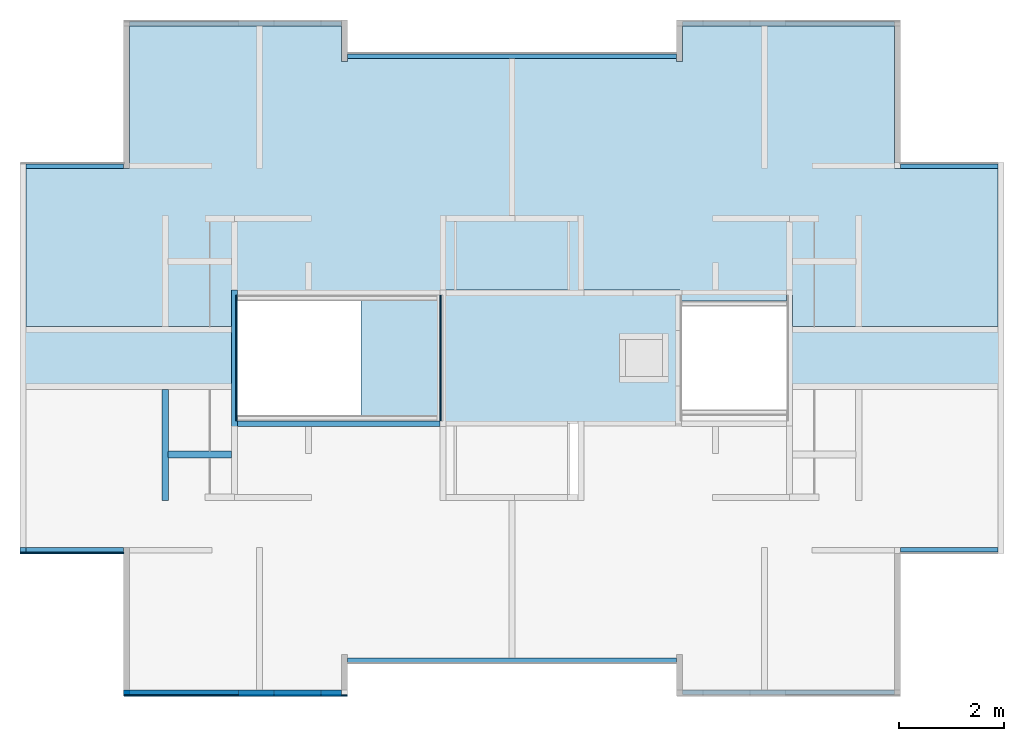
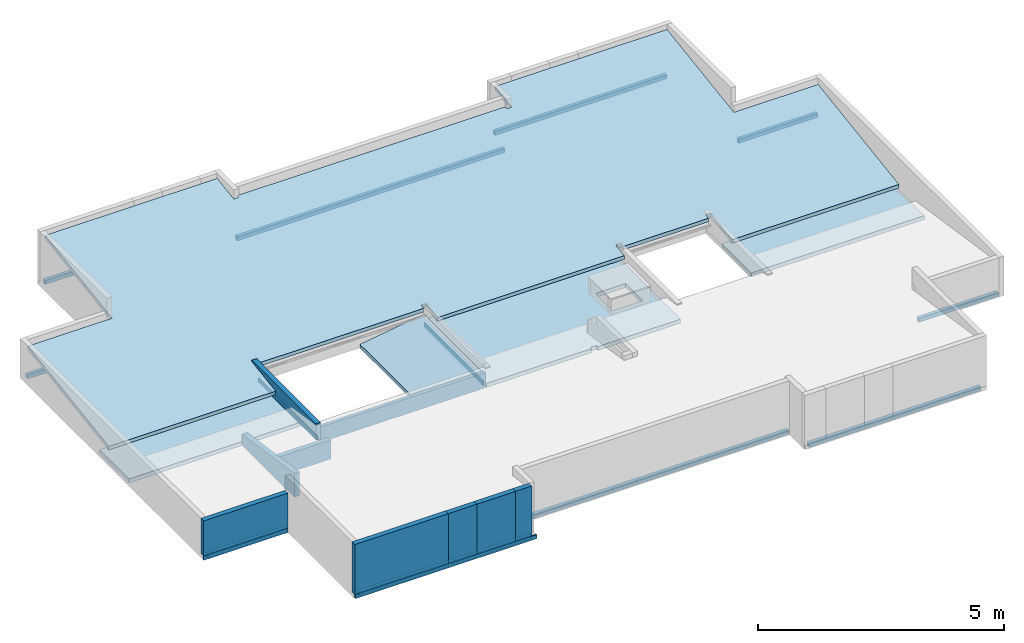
# One storey, part 1 of 9: 15 slabs, 13 walls, 2 elements without a shape of their own.
"""IFC4 building model written with IfcOpenShell, lengths in metres."""

from ifc_helpers import new_model, entity, si_unit, converted_unit, derived_unit, direction, frame, frame_2d, origin, place, context, subcontext, project, spatial, indexed_curve, rectangle, outline, extrude, material, constituent, constituent_set, type_object, element, aggregate, save


model = new_model("IFC4")

# Units and contexts
model_context = context("Model", 3, precision=1e-05, world=origin(), true_north=direction((6.123031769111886e-17, 1.0)))
body_context = subcontext(model_context, "Body", "Model", "MODEL_VIEW")
ifc_project = project(units=[si_unit("LENGTHUNIT", "METRE"), si_unit("AREAUNIT", "SQUARE_METRE"), si_unit("VOLUMEUNIT", "CUBIC_METRE"), converted_unit("PLANEANGLEUNIT", "DEGREE", entity("IfcRatioMeasure", 0.017453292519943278), si_unit("PLANEANGLEUNIT", "RADIAN"), dimensions=[0, 0, 0, 0, 0, 0, 0]), si_unit("MASSUNIT", "GRAM", prefix="KILO"), derived_unit("MASSDENSITYUNIT", [(si_unit("MASSUNIT", "GRAM", prefix="KILO"), 1), (si_unit("LENGTHUNIT", "METRE"), -3)]), derived_unit("IONCONCENTRATIONUNIT", [(si_unit("MASSUNIT", "GRAM", prefix="KILO"), 1), (si_unit("LENGTHUNIT", "METRE"), -3)]), derived_unit("MOMENTOFINERTIAUNIT", [(si_unit("LENGTHUNIT", "METRE"), 4)]), si_unit("TIMEUNIT", "SECOND"), si_unit("FREQUENCYUNIT", "HERTZ"), si_unit("THERMODYNAMICTEMPERATUREUNIT", "DEGREE_CELSIUS"), derived_unit("THERMALTRANSMITTANCEUNIT", [(si_unit("MASSUNIT", "GRAM", prefix="KILO"), 1), (si_unit("THERMODYNAMICTEMPERATUREUNIT", "KELVIN"), -1), (si_unit("TIMEUNIT", "SECOND"), -3)]), derived_unit("THERMALCONDUCTANCEUNIT", [(si_unit("MASSUNIT", "GRAM", prefix="KILO"), 1), (si_unit("THERMODYNAMICTEMPERATUREUNIT", "KELVIN"), -1), (si_unit("TIMEUNIT", "SECOND"), -3), (si_unit("LENGTHUNIT", "METRE"), 1)]), derived_unit("VOLUMETRICFLOWRATEUNIT", [(si_unit("LENGTHUNIT", "METRE"), 3), (si_unit("TIMEUNIT", "SECOND"), -1)]), derived_unit("MASSFLOWRATEUNIT", [(si_unit("MASSUNIT", "GRAM", prefix="KILO"), 1), (si_unit("TIMEUNIT", "SECOND"), -1)]), derived_unit("ROTATIONALFREQUENCYUNIT", [(si_unit("TIMEUNIT", "SECOND"), -1)]), si_unit("ELECTRICCURRENTUNIT", "AMPERE"), si_unit("ELECTRICVOLTAGEUNIT", "VOLT"), si_unit("POWERUNIT", "WATT"), si_unit("FORCEUNIT", "NEWTON", prefix="KILO"), si_unit("ILLUMINANCEUNIT", "LUX"), si_unit("LUMINOUSFLUXUNIT", "LUMEN"), si_unit("LUMINOUSINTENSITYUNIT", "CANDELA"), derived_unit("USERDEFINED", [(si_unit("MASSUNIT", "GRAM", prefix="KILO"), -1), (si_unit("LENGTHUNIT", "METRE"), -2), (si_unit("TIMEUNIT", "SECOND"), 3), (si_unit("LUMINOUSFLUXUNIT", "LUMEN"), 1)]), derived_unit("USERDEFINED", [(si_unit("MASSUNIT", "GRAM", prefix="KILO"), 1), (si_unit("TIMEUNIT", "SECOND"), -3), (si_unit("LENGTHUNIT", "METRE"), 3), (si_unit("ELECTRICCURRENTUNIT", "AMPERE"), -2)]), derived_unit("SOUNDPOWERUNIT", [(si_unit("MASSUNIT", "GRAM", prefix="KILO"), 1), (si_unit("TIMEUNIT", "SECOND"), -3), (si_unit("LENGTHUNIT", "METRE"), 2)]), derived_unit("SOUNDPRESSUREUNIT", [(si_unit("MASSUNIT", "GRAM", prefix="KILO"), 1), (si_unit("LENGTHUNIT", "METRE"), -1), (si_unit("TIMEUNIT", "SECOND"), -2)]), derived_unit("LINEARVELOCITYUNIT", [(si_unit("LENGTHUNIT", "METRE"), 1), (si_unit("TIMEUNIT", "SECOND"), -1)]), si_unit("PRESSUREUNIT", "PASCAL"), derived_unit("USERDEFINED", [(si_unit("MASSUNIT", "GRAM", prefix="KILO"), 1), (si_unit("LENGTHUNIT", "METRE"), -2), (si_unit("TIMEUNIT", "SECOND"), -2)]), derived_unit("LINEARFORCEUNIT", [(si_unit("MASSUNIT", "GRAM", prefix="KILO"), 1), (si_unit("TIMEUNIT", "SECOND"), -2)]), derived_unit("PLANARFORCEUNIT", [(si_unit("MASSUNIT", "GRAM", prefix="KILO"), 1), (si_unit("LENGTHUNIT", "METRE"), -1), (si_unit("TIMEUNIT", "SECOND"), -2)]), derived_unit("SPECIFICHEATCAPACITYUNIT", [(si_unit("THERMODYNAMICTEMPERATUREUNIT", "KELVIN"), -1), (si_unit("LENGTHUNIT", "METRE"), 2), (si_unit("TIMEUNIT", "SECOND"), -2)]), derived_unit("HEATINGVALUEUNIT", [(si_unit("LENGTHUNIT", "METRE"), 2), (si_unit("TIMEUNIT", "SECOND"), -2)]), derived_unit("VAPORPERMEABILITYUNIT", [(si_unit("LENGTHUNIT", "METRE"), -1), (si_unit("TIMEUNIT", "SECOND"), 1)]), derived_unit("DYNAMICVISCOSITYUNIT", [(si_unit("MASSUNIT", "GRAM", prefix="KILO"), 1), (si_unit("TIMEUNIT", "SECOND"), -1), (si_unit("LENGTHUNIT", "METRE"), -1)]), derived_unit("THERMALEXPANSIONCOEFFICIENTUNIT", [(si_unit("THERMODYNAMICTEMPERATUREUNIT", "KELVIN"), -1)]), derived_unit("MODULUSOFELASTICITYUNIT", [(si_unit("MASSUNIT", "GRAM", prefix="KILO"), 1), (si_unit("LENGTHUNIT", "METRE"), -1), (si_unit("TIMEUNIT", "SECOND"), -2)]), derived_unit("ISOTHERMALMOISTURECAPACITYUNIT", [(si_unit("LENGTHUNIT", "METRE"), 3), (si_unit("MASSUNIT", "GRAM", prefix="KILO"), -1)]), derived_unit("MOISTUREDIFFUSIVITYUNIT", [(si_unit("TIMEUNIT", "SECOND"), -1), (si_unit("LENGTHUNIT", "METRE"), 2)])], contexts=[model_context])

# Site, building, storey
site_placement = place(None, origin())
site = spatial("IfcSite", under=ifc_project, at=site_placement, Name="Default", CompositionType="ELEMENT")
building_placement = place(site_placement, origin())
building = spatial("IfcBuilding", under=site, at=building_placement, CompositionType="ELEMENT")
storey_placement = place(building_placement, frame((0.0, 0.0, 14.10000000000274)))
storey = spatial("IfcBuildingStorey", under=building, at=storey_placement, Name="Nivel 7", CompositionType="ELEMENT", Elevation=14.10000000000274)

# Slabs
ifc_material_1 = material(Name="Concreto (Aire)", Category="Materials")
slab_type_1 = type_object("IfcSlabType", Name="Floor:B1010 - 0.10m - Placa Entrepiso - Concreto", PredefinedType="FLOOR", material=ifc_material_1)
slab_1_placement = place(storey_placement, frame((0.05749999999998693, -12.840000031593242, -0.10000000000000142)))
element("IfcSlab", 1, at=slab_1_placement, inside=storey, type_object=slab_type_1, material=ifc_material_1, Name="Floor:B1010 - 0.10m - Placa Entrepiso - Concreto", ObjectType="Floor:B1010 - 0.10m - Placa Entrepiso - Concreto", PredefinedType="FLOOR", context=body_context, shape_type="SweptSolid", body=[
    extrude(rectangle(XDim=0.08500000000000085, YDim=4.034999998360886, at=frame_2d((-5.272500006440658, 6.3725000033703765), x_axis=(0.0, -1.0))), frame((9.265000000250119, 6.415000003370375, 0.10000000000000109), z_axis=(0.0, 0.0, -1.0), x_axis=(-1.0, 0.0, 0.0)), (0.0, 0.0, 1.0), 0.10000000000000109),
])
slab_2_placement = place(storey_placement, frame((0.05749999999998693, -12.840000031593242, -0.10000000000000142)))
element("IfcSlab", 2, at=slab_2_placement, inside=storey, type_object=slab_type_1, Name="Floor:B1010 - 0.10m - Placa Entrepiso - Concreto:2", ObjectType="Floor:B1010 - 0.10m - Placa Entrepiso - Concreto", PredefinedType="FLOOR", context=body_context, shape_type="SweptSolid", body=[
    extrude(rectangle(XDim=0.08500000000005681, YDim=6.280000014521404, at=frame_2d((0.0, 5.75750000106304), x_axis=(0.0, -1.0))), frame((9.265000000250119, 6.415000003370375, 0.10000000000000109), z_axis=(0.0, 0.0, -1.0), x_axis=(-1.0, 0.0, 0.0)), (0.0, 0.0, 1.0), 0.10000000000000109),
])
slab_3_placement = place(storey_placement, frame((0.05749999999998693, -12.840000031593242, -0.10000000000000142)))
element("IfcSlab", 3, at=slab_3_placement, inside=storey, type_object=slab_type_1, Name="Floor:B1010 - 0.10m - Placa Entrepiso - Concreto:3", ObjectType="Floor:B1010 - 0.10m - Placa Entrepiso - Concreto", PredefinedType="FLOOR", context=body_context, shape_type="SweptSolid", body=[
    extrude(rectangle(XDim=4.034999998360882, YDim=0.08500000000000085, at=frame_2d((5.272500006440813, 6.3725000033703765), x_axis=(-1.0, 0.0))), frame((9.265000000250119, 6.415000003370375, 0.10000000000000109), z_axis=(0.0, 0.0, -1.0), x_axis=(-1.0, 0.0, 0.0)), (0.0, 0.0, 1.0), 0.10000000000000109),
])
slab_4_placement = place(storey_placement, frame((0.05749999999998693, -12.840000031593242, -0.10000000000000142)))
element("IfcSlab", 4, at=slab_4_placement, inside=storey, type_object=slab_type_1, Name="Floor:B1010 - 0.10m - Placa Entrepiso - Concreto:4", ObjectType="Floor:B1010 - 0.10m - Placa Entrepiso - Concreto", PredefinedType="FLOOR", context=body_context, shape_type="SweptSolid", body=[
    extrude(rectangle(XDim=1.8599999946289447, YDim=0.08500000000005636, at=frame_2d((8.335000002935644, 3.6574999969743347), x_axis=(-1.0, 0.0))), frame((9.265000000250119, 6.415000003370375, 0.10000000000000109), z_axis=(0.0, 0.0, -1.0), x_axis=(-1.0, 0.0, 0.0)), (0.0, 0.0, 1.0), 0.10000000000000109),
])
slab_5_placement = place(storey_placement, frame((0.05749999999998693, -12.840000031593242, -0.10000000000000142)))
element("IfcSlab", 5, at=slab_5_placement, inside=storey, type_object=slab_type_1, Name="Floor:B1010 - 0.10m - Placa Entrepiso - Concreto:5", ObjectType="Floor:B1010 - 0.10m - Placa Entrepiso - Concreto", PredefinedType="FLOOR", context=body_context, shape_type="SweptSolid", body=[
    extrude(rectangle(XDim=0.08499999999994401, YDim=1.8599999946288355, at=frame_2d((8.335000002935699, -3.6574999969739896), x_axis=(0.0, 1.0))), frame((9.265000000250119, 6.415000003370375, 0.10000000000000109), z_axis=(0.0, 0.0, -1.0), x_axis=(-1.0, 0.0, 0.0)), (0.0, 0.0, 1.0), 0.10000000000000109),
])
slab_6_placement = place(storey_placement, frame((0.05749999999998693, -12.840000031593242, -0.10000000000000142)))
element("IfcSlab", 6, at=slab_6_placement, inside=storey, type_object=slab_type_1, Name="Floor:B1010 - 0.10m - Placa Entrepiso - Concreto:6", ObjectType="Floor:B1010 - 0.10m - Placa Entrepiso - Concreto", PredefinedType="FLOOR", context=body_context, shape_type="SweptSolid", body=[
    extrude(rectangle(XDim=4.034999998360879, YDim=0.08499999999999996, at=frame_2d((5.272500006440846, -6.372500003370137), x_axis=(1.0, 0.0))), frame((9.265000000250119, 6.415000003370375, 0.10000000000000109), z_axis=(0.0, 0.0, -1.0), x_axis=(-1.0, 0.0, 0.0)), (0.0, 0.0, 1.0), 0.10000000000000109),
])
slab_7_placement = place(storey_placement, frame((0.05749999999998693, -12.840000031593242, -0.10000000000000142)))
element("IfcSlab", 7, at=slab_7_placement, inside=storey, type_object=slab_type_1, Name="Floor:B1010 - 0.10m - Placa Entrepiso - Concreto:7", ObjectType="Floor:B1010 - 0.10m - Placa Entrepiso - Concreto", PredefinedType="FLOOR", context=body_context, shape_type="SweptSolid", body=[
    extrude(rectangle(XDim=0.08499999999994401, YDim=6.280000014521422, at=frame_2d((0.0, -5.757500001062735), x_axis=(0.0, 1.0))), frame((9.265000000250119, 6.415000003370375, 0.10000000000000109), z_axis=(0.0, 0.0, -1.0), x_axis=(-1.0, 0.0, 0.0)), (0.0, 0.0, 1.0), 0.10000000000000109),
])
slab_8_placement = place(storey_placement, frame((0.05749999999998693, -12.840000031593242, -0.10000000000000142)))
element("IfcSlab", 8, at=slab_8_placement, inside=storey, type_object=slab_type_1, Name="Floor:B1010 - 0.10m - Placa Entrepiso - Concreto:8", ObjectType="Floor:B1010 - 0.10m - Placa Entrepiso - Concreto", PredefinedType="FLOOR", context=body_context, shape_type="SweptSolid", body=[
    extrude(rectangle(XDim=0.08499999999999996, YDim=4.034999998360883, at=frame_2d((-5.272500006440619, -6.372500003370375), x_axis=(0.0, 1.0))), frame((9.265000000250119, 6.415000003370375, 0.10000000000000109), z_axis=(0.0, 0.0, -1.0), x_axis=(-1.0, 0.0, 0.0)), (0.0, 0.0, 1.0), 0.10000000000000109),
])
slab_9_placement = place(storey_placement, frame((0.05749999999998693, -12.840000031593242, -0.10000000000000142)))
element("IfcSlab", 9, at=slab_9_placement, inside=storey, type_object=slab_type_1, Name="Floor:B1010 - 0.10m - Placa Entrepiso - Concreto:9", ObjectType="Floor:B1010 - 0.10m - Placa Entrepiso - Concreto", PredefinedType="FLOOR", context=body_context, shape_type="SweptSolid", body=[
    extrude(rectangle(XDim=0.08499999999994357, YDim=1.8599999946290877, at=frame_2d((-8.335000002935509, -3.65749999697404), x_axis=(0.0, 1.0))), frame((9.265000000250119, 6.415000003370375, 0.10000000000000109), z_axis=(0.0, 0.0, -1.0), x_axis=(-1.0, 0.0, 0.0)), (0.0, 0.0, 1.0), 0.10000000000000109),
])
slab_10_placement = place(storey_placement, frame((0.05749999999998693, -12.840000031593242, -0.10000000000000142)))
element("IfcSlab", 10, at=slab_10_placement, inside=storey, type_object=slab_type_1, Name="Floor:B1010 - 0.10m - Placa Entrepiso - Concreto:10", ObjectType="Floor:B1010 - 0.10m - Placa Entrepiso - Concreto", PredefinedType="FLOOR", context=body_context, shape_type="SweptSolid", body=[
    extrude(rectangle(XDim=0.08500000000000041, YDim=1.8599999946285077, at=frame_2d((-8.33500000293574, 3.657499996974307), x_axis=(0.0, -1.0))), frame((9.265000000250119, 6.415000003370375, 0.10000000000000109), z_axis=(0.0, 0.0, -1.0), x_axis=(-1.0, 0.0, 0.0)), (0.0, 0.0, 1.0), 0.10000000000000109),
])

# Roof, slab
roof_1_placement = place(storey_placement, frame((0.05749999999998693, -6.097000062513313, 0.13539999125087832)))
roof_1 = element("IfcRoof", 11, at=roof_1_placement, inside=storey, Name="Basic Roof:B3010 - 0.0825 m - Teja Ondulada - Fibrocemento", ObjectType="Basic Roof:B3010 - 0.0825 m - Teja Ondulada - Fibrocemento", PredefinedType="NOTDEFINED")
ifc_material_2 = material(Name="Fibrocemento", Category="Materials")
slab_type_2 = type_object("IfcSlabType", Name="Basic Roof:B3010 - 0.0825 m - Teja Ondulada - Fibrocemento", PredefinedType="ROOF")
slab_11_placement = place(roof_1_placement, origin())
slab_11 = element("IfcSlab", 12, at=slab_11_placement, type_object=slab_type_2, material=ifc_material_2, Name="Basic Roof:B3010 - 0.0825 m - Teja Ondulada - Fibrocemento", ObjectType="Basic Roof:B3010 - 0.0825 m - Teja Ondulada - Fibrocemento", PredefinedType="ROOF", context=body_context, shape_type="SweptSolid", body=[
    extrude(outline(indexed_curve([(-9.265000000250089, -3.0345734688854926), (-5.350000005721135, -3.0345734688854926), (-5.350000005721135, -2.0516992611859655), (-5.235000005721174, -2.0516992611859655), (-5.235000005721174, -2.1533235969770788), (-1.3749999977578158, -2.1533235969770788), (-1.3749999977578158, -2.051699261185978), (-1.2599999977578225, -2.051699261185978), (-1.2599999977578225, -2.511789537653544), (3.120000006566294, -2.511789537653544), (3.120000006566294, -2.1679858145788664), (3.2350000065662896, -2.1679858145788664), (3.2350000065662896, -2.2620262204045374), (5.234999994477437, -2.2620262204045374), (5.234999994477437, -2.1533235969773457), (5.350000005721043, -2.1533235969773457), (5.350000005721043, -3.0274951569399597), (9.265000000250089, -3.0274951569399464), (9.265000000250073, 0.2891996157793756), (7.289999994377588, 0.28919961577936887), (7.289999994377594, 3.034573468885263), (3.25499999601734, 3.034573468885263), (3.25499999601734, 2.3521048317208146), (3.140000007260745, 2.3521048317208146), (3.140000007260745, 2.41269320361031), (-3.14000000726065, 2.41269320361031), (-3.14000000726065, 2.3521048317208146), (-3.255000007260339, 2.3521048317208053), (-3.255000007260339, 3.0345734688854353), (-7.290000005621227, 3.0345734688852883), (-7.290000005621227, 0.2897052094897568), (-9.265000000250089, 0.2897052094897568), (-9.265000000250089, -3.0345734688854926)], self_intersect=False)), frame((9.265000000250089, 3.001000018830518, 0.4501500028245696), z_axis=(0.0, -0.14834045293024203, 0.988936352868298), x_axis=(1.0, 0.0, 0.0)), (0.0, 0.14834045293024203, 0.988936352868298), 0.08847889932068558),
])
aggregate(roof_1, [slab_11])

# Slabs
slab_type_3 = type_object("IfcSlabType", Name="Floor:B1020 - 0.10m - Placa de cubierta - Concreto", PredefinedType="FLOOR", material=ifc_material_1)
slab_12_placement = place(storey_placement, origin())
element("IfcSlab", 13, at=slab_12_placement, inside=storey, type_object=slab_type_3, material=ifc_material_1, Name="Floor:B1020 - 0.10m - Placa de cubierta - Concreto", ObjectType="Floor:B1020 - 0.10m - Placa de cubierta - Concreto", PredefinedType="FLOOR", context=body_context, shape_type="SweptSolid", body=[
    extrude(outline(indexed_curve([(-0.6000000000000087, -2.0287499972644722), (0.6000000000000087, -2.0287499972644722), (0.6000000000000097, 2.0287499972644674), (-0.6000000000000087, 2.028749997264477), (-0.6000000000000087, -2.0287499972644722)], self_intersect=False)), frame((2.0287499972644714, -6.425000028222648, 0.0), z_axis=(0.0, 0.0, -1.0), x_axis=(0.0, 1.0, 0.0)), (0.0, 0.0, 1.0), 0.09999999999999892),
])
slab_13_placement = place(storey_placement, origin())
element("IfcSlab", 14, at=slab_13_placement, inside=storey, type_object=slab_type_3, material=ifc_material_1, Name="Floor:B1020 - 0.10m - Placa de cubierta - Concreto", ObjectType="Floor:B1020 - 0.10m - Placa de cubierta - Concreto", PredefinedType="FLOOR", context=body_context, shape_type="SweptSolid", body=[
    extrude(outline(indexed_curve([(-2.399666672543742, -1.040000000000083), (-0.45466666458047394, -1.040000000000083), (-0.45466666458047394, -0.9900000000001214), (-0.3046666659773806, -0.9900000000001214), (-0.3046666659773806, -1.040000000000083), (-0.2546666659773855, -1.040000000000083), (1.8653333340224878, -1.040000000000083), (1.9153333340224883, -1.040000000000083), (2.1553333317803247, -1.040000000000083), (2.1553333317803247, 1.56000000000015), (-0.3046666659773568, 1.56000000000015), (-0.3046666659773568, 1.510000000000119), (-0.454666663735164, 1.510000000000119), (-0.454666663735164, 1.56000000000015), (-2.399666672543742, 1.56000000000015), (-2.399666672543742, -1.040000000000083)], self_intersect=False), holes=[indexed_curve([(-1.3571666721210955, -0.08999999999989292), (-2.0621666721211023, -0.08999999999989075), (-2.0621666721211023, 0.6100000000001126), (-1.3571666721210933, 0.6100000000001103), (-1.3571666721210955, -0.08999999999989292)], self_intersect=False)]), frame((10.127833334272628, -6.165000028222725, -0.09999999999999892), z_axis=(0.0, 0.0, 1.0), x_axis=(-1.0, 0.0, 0.0)), (0.0, 0.0, 1.0), 0.10000000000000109),
])
slab_14_placement = place(storey_placement, origin())
element("IfcSlab", 15, at=slab_14_placement, inside=storey, type_object=slab_type_3, material=ifc_material_1, Name="Floor:B1020 - 0.10m - Placa de cubierta - Concreto", ObjectType="Floor:B1020 - 0.10m - Placa de cubierta - Concreto", PredefinedType="FLOOR", context=body_context, shape_type="SweptSolid", body=[
    extrude(outline(indexed_curve([(-0.600000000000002, -2.0287499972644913), (0.5999999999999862, -2.0287499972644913), (0.6000000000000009, 2.0287499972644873), (-0.5999999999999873, 2.0287499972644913), (-0.600000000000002, -2.0287499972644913)], self_intersect=False)), frame((16.616250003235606, -6.425000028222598, 0.0), z_axis=(0.0, 0.0, -1.0), x_axis=(0.0, 1.0, 0.0)), (0.0, 0.0, 1.0), 0.10000000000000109),
])

# Roof, slab
roof_2_placement = place(storey_placement, frame((6.44750000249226, -7.625000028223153, -0.10000000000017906)))
roof_2 = element("IfcRoof", 16, at=roof_2_placement, inside=storey, Name="Basic Roof:B3010 - cubierta - policarbonato", ObjectType="Basic Roof:B3010 - cubierta - policarbonato", PredefinedType="NOTDEFINED")
ifc_material_3 = material(Name="cubierta policarbonato", Category="Materials")
slab_type_4 = type_object("IfcSlabType", Name="Basic Roof:B3010 - cubierta - policarbonato", PredefinedType="ROOF")
slab_15_placement = place(roof_2_placement, origin())
slab_15 = element("IfcSlab", 17, at=slab_15_placement, type_object=slab_type_4, material=ifc_material_3, Name="Basic Roof:B3010 - cubierta - policarbonato", ObjectType="Basic Roof:B3010 - cubierta - policarbonato", PredefinedType="ROOF", context=body_context, shape_type="SweptSolid", body=[
    extrude(outline(indexed_curve([(-0.7583905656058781, 1.1997500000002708), (-0.7583905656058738, -1.1997500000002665), (0.7583905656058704, -1.1997500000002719), (0.7583905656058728, 1.199750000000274), (-0.7583905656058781, 1.1997500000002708)], self_intersect=False)), frame((0.7500000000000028, 1.1997500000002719, 0.11249999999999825), z_axis=(-0.14834045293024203, 0.0, 0.988936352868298), x_axis=(0.988936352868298, 0.0, 0.14834045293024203)), (0.14834045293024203, 0.0, 0.988936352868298), 0.08847889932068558),
])
aggregate(roof_2, [slab_15])

# Walls
ifc_material_4 = material(Name="Ladrillo claro (Aire)", Category="Materials")
wall_type_1 = type_object("IfcWallType", Name="Basic Wall:B2010 - 0.115m - Muro exterior en mampostería - Ladrillo", PredefinedType="STANDARD")
wall_1_placement = place(storey_placement, frame((4.111699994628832, -12.812500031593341, 0.0)))
element("IfcWall", 18, at=wall_1_placement, inside=storey, type_object=wall_type_1, material=ifc_material_4, Name="Basic Wall:B2010 - 0.115m - Muro exterior en mampostería - Ladrillo", ObjectType="Basic Wall:B2010 - 0.115m - Muro exterior en mampostería - Ladrillo", PredefinedType="NOTDEFINED", context=body_context, shape_type="SweptSolid", body=[
    extrude(outline(indexed_curve([(0.6707999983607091, 0.057500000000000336), (-2.209540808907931e-16, 0.057499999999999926), (2.209540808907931e-16, -0.057499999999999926), (0.6707999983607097, -0.05749999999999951), (0.6707999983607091, 0.057500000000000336)], self_intersect=False)), origin(), (0.0, 0.0, 1.0), 1.2468000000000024),
])
wall_2_placement = place(storey_placement, frame((5.682499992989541, -12.812500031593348, 0.0)))
element("IfcWall", 19, at=wall_2_placement, inside=storey, type_object=wall_type_1, material=ifc_material_4, Name="Basic Wall:B2010 - 0.115m - Muro exterior en mampostería - Ladrillo", ObjectType="Basic Wall:B2010 - 0.115m - Muro exterior en mampostería - Ladrillo", PredefinedType="NOTDEFINED", context=body_context, shape_type="SweptSolid", body=[
    extrude(outline(indexed_curve([(0.3849999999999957, 0.05750000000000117), (-1.8551913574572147e-16, 0.057499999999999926), (1.8551913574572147e-16, -0.057499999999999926), (0.38499999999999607, -0.05749999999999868), (0.3849999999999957, 0.05750000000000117)], self_intersect=False)), origin(), (0.0, 0.0, 1.0), 1.2468000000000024),
])
ifc_material_5 = material(Name="LADRILLO CLARO", Category="Materials")
wall_type_2 = type_object("IfcWallType", Name="Basic Wall:B2010 - 0.115m - ME mampostería no estructural - Ladrillo", PredefinedType="STANDARD")
wall_3_placement = place(storey_placement, frame((-0.05749999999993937, -10.097500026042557, 0.0)))
element("IfcWall", 20, at=wall_3_placement, inside=storey, type_object=wall_type_2, material=ifc_material_5, Name="Basic Wall:B2010 - 0.115m - ME mampostería no estructural - Ladrillo", ObjectType="Basic Wall:B2010 - 0.115m - ME mampostería no estructural - Ladrillo", PredefinedType="NOTDEFINED", context=body_context, shape_type="SweptSolid", body=[
    extrude(outline(indexed_curve([(1.9749999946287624, 0.05749999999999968), (3.950144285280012e-18, 0.057499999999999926), (4.509755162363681e-18, -0.057499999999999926), (1.9749999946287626, -0.05750000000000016), (1.9749999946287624, 0.05749999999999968)], self_intersect=False)), origin(), (0.0, 0.0, 1.0), 0.8758000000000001),
])
wall_4_placement = place(storey_placement, frame((1.9174999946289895, -12.812500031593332, 0.0)))
element("IfcWall", 21, at=wall_4_placement, inside=storey, type_object=wall_type_2, material=ifc_material_5, Name="Basic Wall:B2010 - 0.115m - ME mampostería no estructural - Ladrillo", ObjectType="Basic Wall:B2010 - 0.115m - ME mampostería no estructural - Ladrillo", PredefinedType="NOTDEFINED", context=body_context, shape_type="SweptSolid", body=[
    extrude(outline(indexed_curve([(2.194199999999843, 0.05749999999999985), (-1.1151582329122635e-16, 0.057499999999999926), (1.1151582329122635e-16, -0.057499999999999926), (2.194199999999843, -0.0575), (2.194199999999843, 0.05749999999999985)], self_intersect=False)), origin(), (0.0, 0.0, 1.0), 1.2468000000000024),
])
wall_5_placement = place(storey_placement, frame((4.782499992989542, -12.812500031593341, 0.0)))
element("IfcWall", 22, at=wall_5_placement, inside=storey, type_object=wall_type_2, material=ifc_material_5, Name="Basic Wall:B2010 - 0.115m - ME mampostería no estructural - Ladrillo", ObjectType="Basic Wall:B2010 - 0.115m - ME mampostería no estructural - Ladrillo", PredefinedType="NOTDEFINED", context=body_context, shape_type="SweptSolid", body=[
    extrude(outline(indexed_curve([(0.8999999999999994, 0.0574999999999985), (3.5591442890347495e-16, 0.057499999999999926), (-3.5591442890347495e-16, -0.057499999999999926), (0.8999999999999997, -0.057500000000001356), (0.8999999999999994, 0.0574999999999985)], self_intersect=False)), origin(), (0.0, 0.0, 1.0), 1.2468000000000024),
])
ifc_material_6 = material(Name="Pañete", Category="Materials")
ifc_constituent_1 = constituent(ifc_material_6, Name="Pañete", Category="Materials")
ifc_constituent_2 = constituent(ifc_material_4, Name="Ladrillo claro (Aire)", Category="Materials")
ifc_constituent_set_1 = constituent_set(constituents=[ifc_constituent_1, ifc_constituent_2], Name="Basic Wall:B2010 - 0.115m - Muro interior en mampostería - Ladrillo + Pañete")
wall_type_3 = type_object("IfcWallType", Name="Basic Wall:B2010 - 0.115m - Muro interior en mampostería - Ladrillo + Pañete", PredefinedType="STANDARD", material=ifc_constituent_set_1)
wall_6_placement = place(storey_placement, frame((2.7150010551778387, -9.140000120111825, -0.10000000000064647), z_axis=(0.0, 0.0, 1.0), x_axis=(0.0, 1.0, 0.0)))
element("IfcWall", 23, at=wall_6_placement, inside=storey, type_object=wall_type_3, material=ifc_constituent_set_1, Name="Basic Wall:B2010 - 0.115m - Muro interior en mampostería - Ladrillo + Pañete", ObjectType="Basic Wall:B2010 - 0.115m - Muro interior en mampostería - Ladrillo + Pañete", PredefinedType="NOTDEFINED", context=body_context, shape_type="SweptSolid", body=[
    extrude(outline(indexed_curve([(-0.1922642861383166, -1.2085714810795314), (-0.09226428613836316, -1.2085714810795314), (0.08393571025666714, -1.2085714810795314), (0.4011857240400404, 0.9064286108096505), (0.08393571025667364, 0.9064286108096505), (-0.09226428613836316, 0.9064286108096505), (-0.1922642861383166, 0.9064286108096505), (-0.1922642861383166, -1.2085714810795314)], self_intersect=False)), frame((0.9064286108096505, -0.05249999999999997, 0.1922642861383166), z_axis=(0.0, -1.0, 0.0), x_axis=(0.0, 0.0, 1.0)), (0.0, 0.0, 1.0), 0.009999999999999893),
    extrude(outline(indexed_curve([(-0.9064286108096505, -0.19226428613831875), (1.2085714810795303, -0.19226428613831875), (1.2085714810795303, -0.09226428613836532), (1.2085714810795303, 0.08393571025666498), (-0.9064286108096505, 0.4011857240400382), (-0.9064286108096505, 0.08393571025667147), (-0.9064286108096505, -0.09226428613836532), (-0.9064286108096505, -0.19226428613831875)], self_intersect=False)), frame((0.9064286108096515, 0.062499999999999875, 0.19226428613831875), z_axis=(0.0, -1.0, 0.0), x_axis=(1.0, 0.0, 0.0)), (0.0, 0.0, 1.0), 0.11499999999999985),
])
ifc_constituent_3 = constituent(ifc_material_6, Name="Pañete", Category="Materials")
ifc_constituent_4 = constituent(ifc_material_5, Name="LADRILLO CLARO", Category="Materials")
ifc_constituent_5 = constituent(ifc_material_6, Name="Pañete (2)", Category="Materials")
ifc_constituent_set_2 = constituent_set(constituents=[ifc_constituent_3, ifc_constituent_4, ifc_constituent_5], Name="Basic Wall:B2010 - 0.115m - MI  mampostería no estructural - Pañete + Ladrillo + Pañete")
wall_type_4 = type_object("IfcWallType", Name="Basic Wall:B2010 - 0.115m - MI  mampostería no estructural - Pañete + Ladrillo + Pañete", PredefinedType="STANDARD", material=ifc_constituent_set_2)
wall_7_placement = place(storey_placement, frame((3.9724999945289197, -8.267499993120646, -0.10000000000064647), z_axis=(0.0, 0.0, 1.0), x_axis=(-1.0, 0.0, 0.0)))
element("IfcWall", 24, at=wall_7_placement, inside=storey, type_object=wall_type_4, material=ifc_constituent_set_2, Name="Basic Wall:B2010 - 0.115m - MI  mampostería no estructural - Pañete + Ladrillo + Pañete", ObjectType="Basic Wall:B2010 - 0.115m - MI  mampostería no estructural - Pañete + Ladrillo + Pañete", PredefinedType="NOTDEFINED", context=body_context, shape_type="SweptSolid", body=[
    extrude(outline(indexed_curve([(-0.004999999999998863, -0.23597499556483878), (0.005000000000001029, -0.23597499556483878), (0.005000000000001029, 0.23522499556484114), (-0.004999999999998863, 0.23672499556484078), (-0.004999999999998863, -0.23597499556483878)], self_intersect=False)), frame((1.1949989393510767, 0.06250000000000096, 0.23597499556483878), z_axis=(-1.0, 0.0, 0.0), x_axis=(0.0, -1.0, 0.0)), (0.0, 0.0, 1.0), 1.1949989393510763),
    extrude(outline(indexed_curve([(0.028558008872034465, -0.22409297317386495), (0.038669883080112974, -0.22409297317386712), (-0.028669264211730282, 0.22483467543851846), (-0.038558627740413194, 0.22335127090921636), (0.028558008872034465, -0.22409297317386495)], self_intersect=False)), frame((1.1949989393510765, -0.06250000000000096, 0.22659999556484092), z_axis=(-1.0, 0.0, 0.0), x_axis=(0.0, 0.9889363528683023, 0.14834045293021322)), (0.0, 0.0, 1.0), 1.1949989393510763),
    extrude(outline(indexed_curve([(-0.23128749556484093, -0.057499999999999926), (0.22266249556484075, -0.057499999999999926), (0.23991249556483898, 0.057499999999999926), (-0.23128749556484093, 0.057499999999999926), (-0.23128749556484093, -0.057499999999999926)], self_intersect=False)), frame((1.204998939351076, 0.0, 0.23128749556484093), z_axis=(-1.0, 0.0, 0.0), x_axis=(0.0, 0.0, 1.0)), (0.0, 0.0, 1.0), 1.2049989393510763),
])
wall_type_5 = type_object("IfcWallType", Name="Basic Wall:B2010 - 0.115m - MI mampostería no estructural - Ladrillo", PredefinedType="STANDARD")
wall_8_placement = place(storey_placement, frame((4.02999999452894, -5.124500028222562, 0.0), z_axis=(0.0, 0.0, 1.0), x_axis=(0.0, -1.0, 0.0)))
element("IfcWall", 25, at=wall_8_placement, inside=storey, type_object=wall_type_5, material=ifc_material_5, Name="Basic Wall:B2010 - 0.115m - MI mampostería no estructural - Ladrillo", ObjectType="Basic Wall:B2010 - 0.115m - MI mampostería no estructural - Ladrillo", PredefinedType="NOTDEFINED", context=body_context, shape_type="SweptSolid", body=[
    extrude(outline(indexed_curve([(2.601500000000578, 0.057499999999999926), (-8.381808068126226e-17, 0.057499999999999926), (8.381808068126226e-17, -0.057499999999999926), (2.601500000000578, -0.057499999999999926), (2.601500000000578, 0.057499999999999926)], self_intersect=False)), origin(), (0.0, 0.0, 1.0), 0.40000000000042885),
])
ifc_material_7 = material(Name="Graniplast", Category="Materials")
ifc_constituent_6 = constituent(ifc_material_7, Name="Graniplast", Category="Materials")
ifc_constituent_7 = constituent(ifc_material_1, Name="Concreto (Aire)", Category="Materials")
ifc_constituent_set_3 = constituent_set(constituents=[ifc_constituent_6, ifc_constituent_7], Name="Basic Wall:B2010 - 0.10m - MI Concreto- Concreto+Graniplast")
wall_type_6 = type_object("IfcWallType", Name="Basic Wall:B2010 - 0.10m - MI Concreto- Concreto+Graniplast", PredefinedType="STANDARD", material=ifc_constituent_set_3)
wall_9_placement = place(storey_placement, frame((4.087499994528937, -7.675500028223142, -0.1000000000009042)))
element("IfcWall", 26, at=wall_9_placement, inside=storey, type_object=wall_type_6, material=ifc_constituent_set_3, Name="Basic Wall:B2010 - 0.10m - MI Concreto- Concreto+Graniplast", ObjectType="Basic Wall:B2010 - 0.10m - MI Concreto- Concreto+Graniplast", PredefinedType="NOTDEFINED", context=body_context, shape_type="SweptSolid", body=[
    extrude(outline(indexed_curve([(-0.15542499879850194, -0.0004999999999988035), (-0.055424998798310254, -0.0004999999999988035), (0.21077499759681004, -0.0004999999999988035), (0.21092499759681, 0.0005000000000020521), (-0.055424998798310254, 0.0005000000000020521), (-0.15542499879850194, 0.0005000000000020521), (-0.15542499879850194, -0.0004999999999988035)], self_intersect=False)), frame((0.0, 0.050000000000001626, 0.15542499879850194), z_axis=(1.0, 0.0, 0.0), x_axis=(0.0, 0.0, 1.0)), (0.0, 0.0, 1.0), 3.8600000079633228),
    extrude(outline(indexed_curve([(-0.08984285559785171, -0.05699999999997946), (0.17650714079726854, -0.05699999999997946), (0.19135714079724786, 0.04199999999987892), (0.19150714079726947, 0.04300000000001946), (-0.08984285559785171, 0.04300000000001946), (-0.1898428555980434, 0.04300000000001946), (-0.1898428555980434, -0.05699999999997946), (-0.08984285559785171, -0.05699999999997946)], self_intersect=False)), frame((0.0, -0.0074999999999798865, 0.1898428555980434), z_axis=(1.0, 0.0, 0.0), x_axis=(0.0, 0.0, 1.0)), (0.0, 0.0, 1.0), 3.8600000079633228),
])
wall_type_7 = type_object("IfcWallType", Name="Basic Wall:B2010 - 0.03m - ME enchape  no estructural - Ladrillo", PredefinedType="STANDARD")
wall_10_placement = place(storey_placement, frame((1.9324999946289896, -12.855000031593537, -0.10000000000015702)))
element("IfcWall", 27, at=wall_10_placement, inside=storey, type_object=wall_type_7, material=ifc_material_5, Name="Basic Wall:B2010 - 0.03m - ME enchape  no estructural - Ladrillo", ObjectType="Basic Wall:B2010 - 0.03m - ME enchape  no estructural - Ladrillo", PredefinedType="NOTDEFINED", context=body_context, shape_type="SweptSolid", body=[
    extrude(outline(indexed_curve([(4.249999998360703, 0.015000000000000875), (-4.5701309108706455e-17, 0.015000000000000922), (4.5701309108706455e-17, -0.015000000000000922), (4.249999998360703, -0.015000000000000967), (4.249999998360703, 0.015000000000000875)], self_intersect=False)), origin(), (0.0, 0.0, 1.0), 0.09999999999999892),
])
wall_11_placement = place(storey_placement, frame((-0.05749999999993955, -10.140000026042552, -0.10000000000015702)))
element("IfcWall", 28, at=wall_11_placement, inside=storey, type_object=wall_type_7, material=ifc_material_5, Name="Basic Wall:B2010 - 0.03m - ME enchape  no estructural - Ladrillo", ObjectType="Basic Wall:B2010 - 0.03m - ME enchape  no estructural - Ladrillo", PredefinedType="NOTDEFINED", context=body_context, shape_type="SweptSolid", body=[
    extrude(outline(indexed_curve([(1.9749999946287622, 0.015000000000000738), (2.8095605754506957e-18, 0.015000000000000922), (-2.8095605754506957e-18, -0.015000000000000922), (1.9749999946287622, -0.015000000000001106), (1.9749999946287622, 0.015000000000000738)], self_intersect=False)), origin(), (0.0, 0.0, 1.0), 0.09999999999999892),
])
for number, where, z_axis, x_axis in (
    (29, (4.0724999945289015, -5.225500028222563, -0.10000000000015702), (0.0, 0.0, 1.0), (0.0, -1.0, 0.0)),
    (30, (7.962500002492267, -5.225500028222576, -0.10000000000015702), (0.0, 0.0, 1.0), (0.0, -1.0, 0.0)),
):
    element("IfcWall", number, at=place(storey_placement, frame(where, z_axis=z_axis, x_axis=x_axis)), inside=storey, type_object=wall_type_7, material=ifc_material_5, Name="Basic Wall:B2010 - 0.03m - ME enchape  no estructural - Ladrillo", ObjectType="Basic Wall:B2010 - 0.03m - ME enchape  no estructural - Ladrillo", PredefinedType="NOTDEFINED", context=body_context, shape_type="SweptSolid", body=[
        extrude(outline(indexed_curve([(2.3995000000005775, 0.014999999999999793), (-2.0011918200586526e-17, 0.014999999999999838), (2.0011918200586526e-17, -0.014999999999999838), (2.3995000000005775, -0.014999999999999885), (2.3995000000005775, 0.014999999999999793)], self_intersect=False)), origin(), (0.0, 0.0, 1.0), 0.09999999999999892),
    ])

save(model, "model.ifc")
